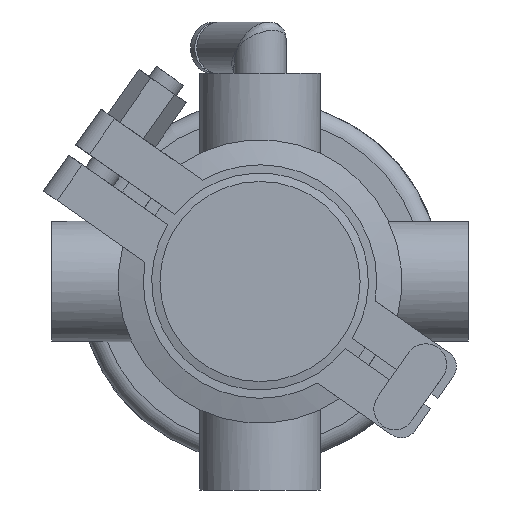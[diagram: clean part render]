
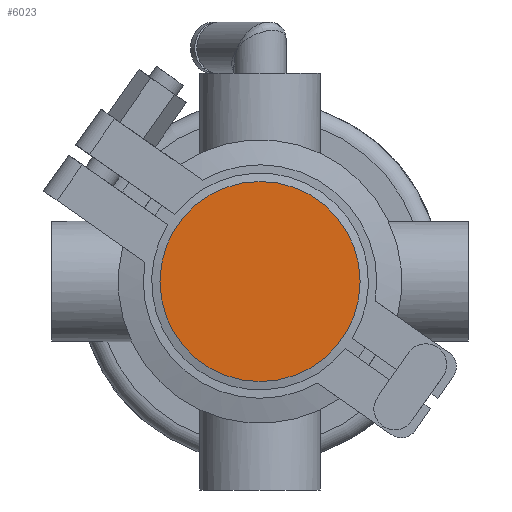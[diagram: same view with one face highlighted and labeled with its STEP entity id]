
A CAD part, front view. The second image highlights one B-rep face of the part: STEP entity #6023.
In plain terms, the highlighted planar face has unit normal (0, -1, 0).
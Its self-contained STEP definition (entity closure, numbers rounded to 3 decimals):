
#1883 = VERTEX_POINT ( 'NONE', #10079 ) ;
#2090 = DIRECTION ( 'NONE',  ( 0., 0., -1. ) ) ;
#2984 = DIRECTION ( 'NONE',  ( 0., 0., 1. ) ) ;
#3828 = FACE_OUTER_BOUND ( 'NONE', #10964, .T. ) ;
#5636 = CIRCLE ( 'NONE', #14457, 24. ) ;
#6023 = ADVANCED_FACE ( 'NONE', ( #3828 ), #6892, .T. ) ;
#6892 = PLANE ( 'NONE',  #11146 ) ;
#10079 = CARTESIAN_POINT ( 'NONE',  ( 0., 0., 24. ) ) ;
#10888 = EDGE_CURVE ( 'NONE', #1883, #1883, #5636, .T. ) ;
#10964 = EDGE_LOOP ( 'NONE', ( #14111 ) ) ;
#11146 = AXIS2_PLACEMENT_3D ( 'NONE', #11298, #17650, #2090 ) ;
#11298 = CARTESIAN_POINT ( 'NONE',  ( -24., 0., 0. ) ) ;
#12192 = CARTESIAN_POINT ( 'NONE',  ( 0., 0., 0. ) ) ;
#14111 = ORIENTED_EDGE ( 'NONE', *, *, #10888, .F. ) ;
#14457 = AXIS2_PLACEMENT_3D ( 'NONE', #12192, #18436, #2984 ) ;
#17650 = DIRECTION ( 'NONE',  ( 0., -1., 0. ) ) ;
#18436 = DIRECTION ( 'NONE',  ( 0., 1., 0. ) ) ;
